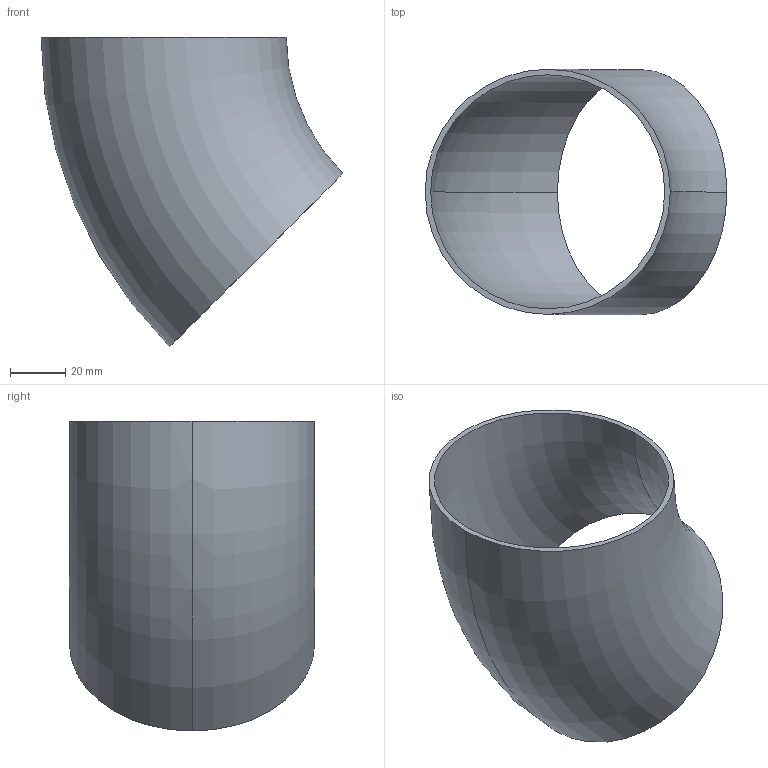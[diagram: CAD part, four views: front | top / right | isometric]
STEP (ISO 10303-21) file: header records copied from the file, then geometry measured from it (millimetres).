
FILE_DESCRIPTION (( 'STEP AP203' ), '1' );
FILE_NAME ('3D_R1650_88.9x2_17351450.STEP', '2024-08-03T09:04:11', ( '' ), ( '' ), 'SwSTEP 2.0', 'SolidWorks 2024', '' );
FILE_SCHEMA (( 'CONFIG_CONTROL_DESIGN' ));
Length unit declared in the file: millimetre
Products named in the file (1): 3D_R1650_88.9x2_17351450
Bounding box: 109.42 x 88.9 x 112.39 mm (x, y, z)
Volume: 49101.5 mm3; surface area: 50193.5 mm2
Topology: 1 solids, 1 shells, 6 faces, 12 edges, 8 vertices
Faces by surface type: torus 4, plane 2
Entity records: 249 total; most frequent: DIRECTION 38, CARTESIAN_POINT 27, ORIENTED_EDGE 24, AXIS2_PLACEMENT_3D 19, EDGE_CURVE 12, CIRCLE 12, VERTEX_POINT 8, PERSON_AND_ORGANIZATION 8
